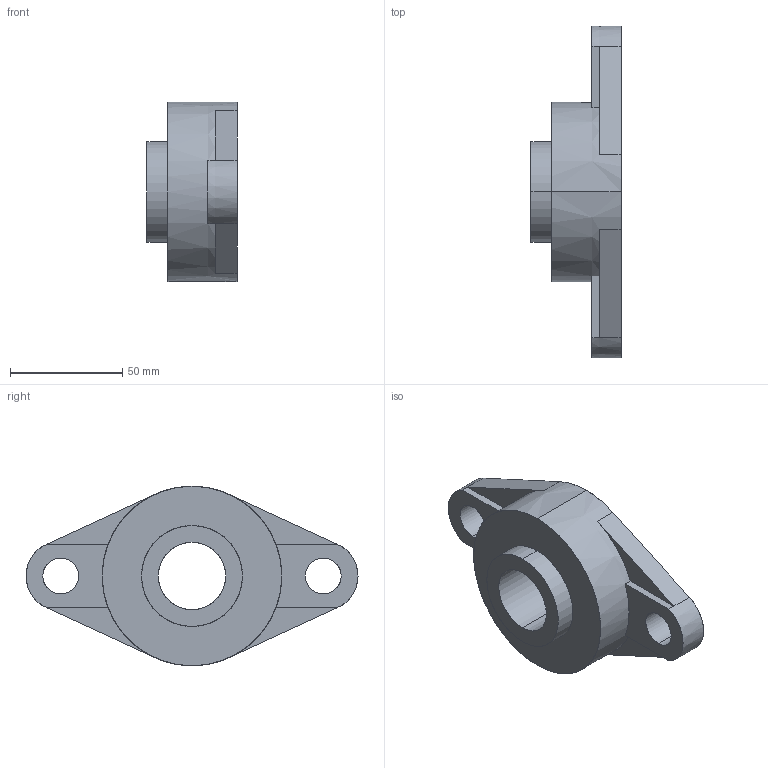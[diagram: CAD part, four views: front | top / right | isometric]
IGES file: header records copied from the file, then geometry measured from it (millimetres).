
Start section: SolidWorks IGES file using analytic representation for surfaces
Global section: file name: C:\Users\Honza\Desktop\Matis\Ložisková tìlesa\UCFL\UCFL 206.IGS; native system: SolidWorks 2010; preprocessor: SolidWorks 2010; author: Honza; date: 130920.101725; units: millimetre
Bounding box: 40.2 x 148 x 80 mm (x, y, z)
Surface area: 29006.9 mm2 (no closed solid volume)
Topology: 0 solids, 0 shells, 29 faces, 668 edges, 668 vertices
Faces by surface type: bspline 17, revolution 12
